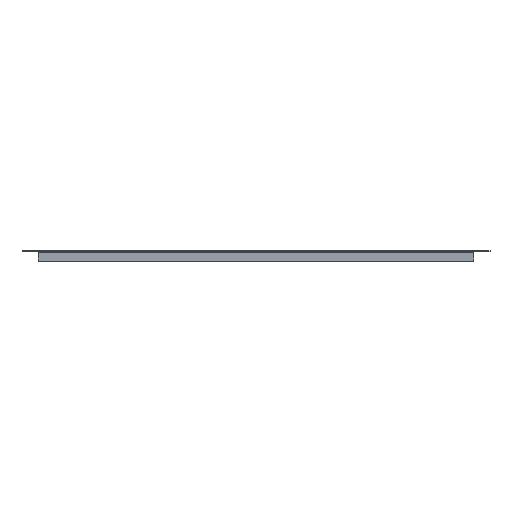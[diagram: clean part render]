
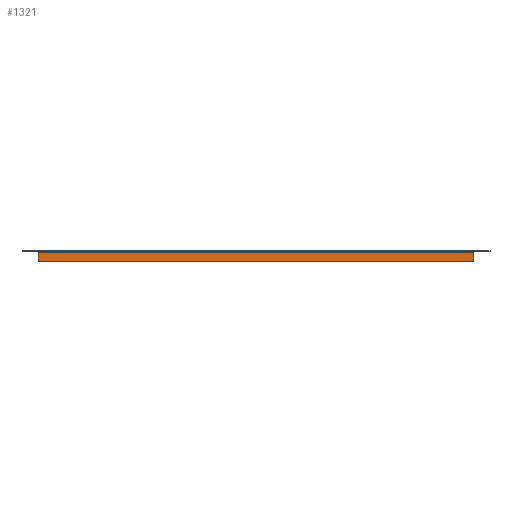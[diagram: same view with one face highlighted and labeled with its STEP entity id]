
A CAD part, front view. The second image highlights one B-rep face of the part: STEP entity #1321.
In plain terms, the highlighted planar face has unit normal (0, -1, 0).
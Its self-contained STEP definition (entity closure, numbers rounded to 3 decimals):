
#10 = ORIENTED_EDGE ( 'NONE', *, *, #924, .F. ) ;
#12 = ORIENTED_EDGE ( 'NONE', *, *, #929, .F. ) ;
#13 = ORIENTED_EDGE ( 'NONE', *, *, #932, .F. ) ;
#15 = ORIENTED_EDGE ( 'NONE', *, *, #927, .F. ) ;
#105 = VECTOR ( 'NONE', #750, 1000. ) ;
#108 = VECTOR ( 'NONE', #759, 1000. ) ;
#110 = VECTOR ( 'NONE', #765, 1000. ) ;
#113 = VECTOR ( 'NONE', #774, 1000. ) ;
#214 = FACE_OUTER_BOUND ( 'NONE', #424, .T. ) ;
#218 = AXIS2_PLACEMENT_3D ( 'NONE', #1063, #1064, #1065 ) ;
#424 = EDGE_LOOP ( 'NONE', ( #10, #12, #13, #15 ) ) ;
#481 = VERTEX_POINT ( 'NONE', #625 ) ;
#484 = VERTEX_POINT ( 'NONE', #628 ) ;
#486 = VERTEX_POINT ( 'NONE', #630 ) ;
#487 = VERTEX_POINT ( 'NONE', #631 ) ;
#625 = CARTESIAN_POINT ( 'NONE',  ( 309.5, -299.5, -1.2 ) ) ;
#628 = CARTESIAN_POINT ( 'NONE',  ( -309.5, -299.5, -1.2 ) ) ;
#630 = CARTESIAN_POINT ( 'NONE',  ( 309.5, -299.5, -13.8 ) ) ;
#631 = CARTESIAN_POINT ( 'NONE',  ( -309.5, -299.5, -13.8 ) ) ;
#748 = LINE ( 'NONE', #749, #105 ) ;
#749 = CARTESIAN_POINT ( 'NONE',  ( 309.5, -299.5, -1.2 ) ) ;
#750 = DIRECTION ( 'NONE',  ( 1., 0., 0. ) ) ;
#757 = LINE ( 'NONE', #758, #108 ) ;
#758 = CARTESIAN_POINT ( 'NONE',  ( 309.5, -299.5, 0. ) ) ;
#759 = DIRECTION ( 'NONE',  ( 0., 0., -1. ) ) ;
#763 = LINE ( 'NONE', #764, #110 ) ;
#764 = CARTESIAN_POINT ( 'NONE',  ( -309.5, -299.5, -13.8 ) ) ;
#765 = DIRECTION ( 'NONE',  ( 0., 0., 1. ) ) ;
#772 = LINE ( 'NONE', #773, #113 ) ;
#773 = CARTESIAN_POINT ( 'NONE',  ( 309.5, -299.5, -13.8 ) ) ;
#774 = DIRECTION ( 'NONE',  ( -1., 0., 0. ) ) ;
#924 = EDGE_CURVE ( 'NONE', #484, #481, #748, .T. ) ;
#927 = EDGE_CURVE ( 'NONE', #481, #486, #757, .T. ) ;
#929 = EDGE_CURVE ( 'NONE', #487, #484, #763, .T. ) ;
#932 = EDGE_CURVE ( 'NONE', #486, #487, #772, .T. ) ;
#1062 = PLANE ( 'NONE',  #218 ) ;
#1063 = CARTESIAN_POINT ( 'NONE',  ( 309.5, -299.5, 0. ) ) ;
#1064 = DIRECTION ( 'NONE',  ( 0., 1., 0. ) ) ;
#1065 = DIRECTION ( 'NONE',  ( 0., 0., 1. ) ) ;
#1321 = ADVANCED_FACE ( 'NONE', ( #214 ), #1062, .F. ) ;
